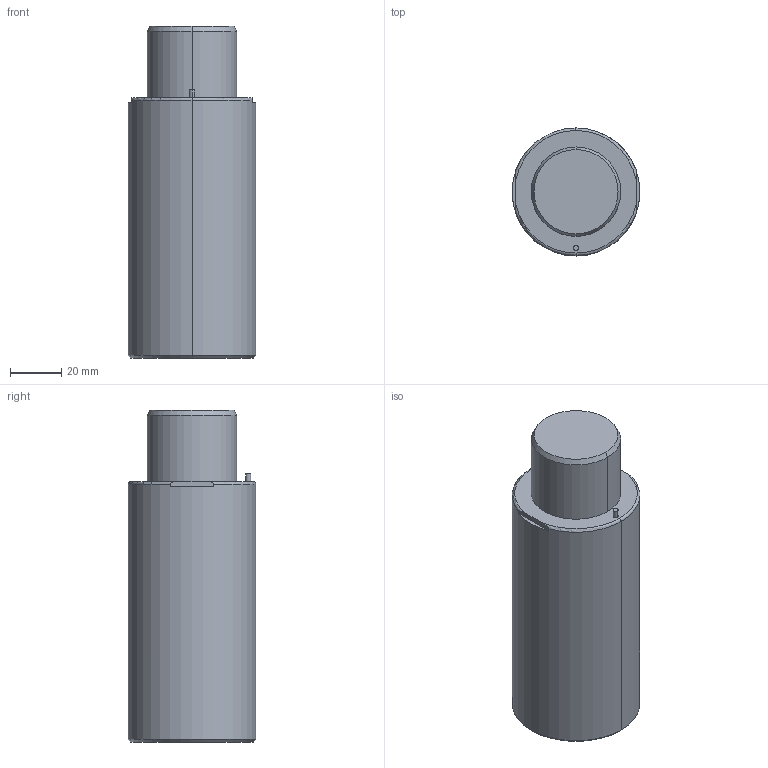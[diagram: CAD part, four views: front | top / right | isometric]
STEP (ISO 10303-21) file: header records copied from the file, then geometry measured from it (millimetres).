
FILE_DESCRIPTION(/* description */ (''),/* implementation_level */ '2;1');
FILE_NAME(/* name */ '3d_gsx50-25_03971_r00.stp',/* time_stamp */ '2011-01-10T14:15:12+09:00',/* author */ ('MISUMI'),/* organization */ (''),/* preprocessor_version */ 'ST-DEVELOPER v11',/* originating_system */ 'UGS - NX 5.0',/* authorisation */ '');
FILE_SCHEMA (('CONFIG_CONTROL_DESIGN'));
Length unit declared in the file: millimetre
Products named in the file (1): 3d_gsx50-25_03971_r00
Bounding box: 50 x 50 x 130 mm (x, y, z)
Volume: 223655.6 mm3; surface area: 24496 mm2
Topology: 1 solids, 1 shells, 59 faces, 130 edges, 78 vertices
Faces by surface type: cylinder 28, plane 15, cone 12, torus 4
Entity records: 1724 total; most frequent: CARTESIAN_POINT 320, DIRECTION 308, ORIENTED_EDGE 244, AXIS2_PLACEMENT_3D 130, EDGE_CURVE 122, VERTEX_POINT 78, EDGE_LOOP 72, CIRCLE 70
